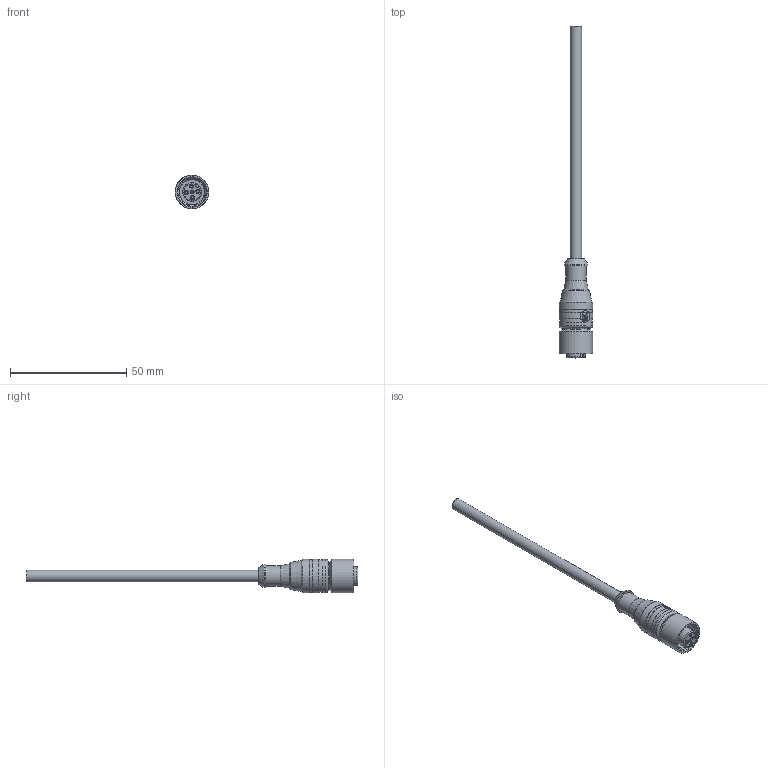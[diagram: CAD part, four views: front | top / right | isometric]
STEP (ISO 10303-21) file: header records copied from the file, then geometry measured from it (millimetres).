
FILE_DESCRIPTION( ( 'Unknown' ), '1' );
FILE_NAME( 'C:/Users/txr10011/Documents/1_in Bearbeitung/151016/Hüllmodelle/RKT_5-293_xxM.stp', 'Unknown', ( 'Unknown' ), ( 'Unknown' ), 'PSStep 17.0.49', 'Unknown', ' ' );
FILE_SCHEMA( ( 'AUTOMOTIVE_DESIGN { 1 0 10303 214 1 1 1 1 }' ) );
Length unit declared in the file: millimetre
Products named in the file (1): 000-600-X02_2_1_000134019DNR
Bounding box: 14.5 x 142.9 x 14.5 mm (x, y, z)
Volume: 6639 mm3; surface area: 4501 mm2
Topology: 1 solids, 1 shells, 119 faces, 272 edges, 178 vertices
Faces by surface type: plane 55, cylinder 31, cone 22, torus 6, extrusion 5
Full cylindrical faces by diameter (mm): 1.1 x5, 5 x1, 7.5 x1, 8.8 x1, 10 x1, 10.3 x1, 10.8 x1, 11.05 x1, 12.2 x1, 14.2 x2, 14.5 x3
Entity records: 4785 total; most frequent: CARTESIAN_POINT 1340, DIRECTION 522, ORIENTED_EDGE 438, EDGE_CURVE 219, AXIS2_PLACEMENT_3D 216, EDGE_LOOP 181, VERTEX_POINT 164, FACE_OUTER_BOUND 140
